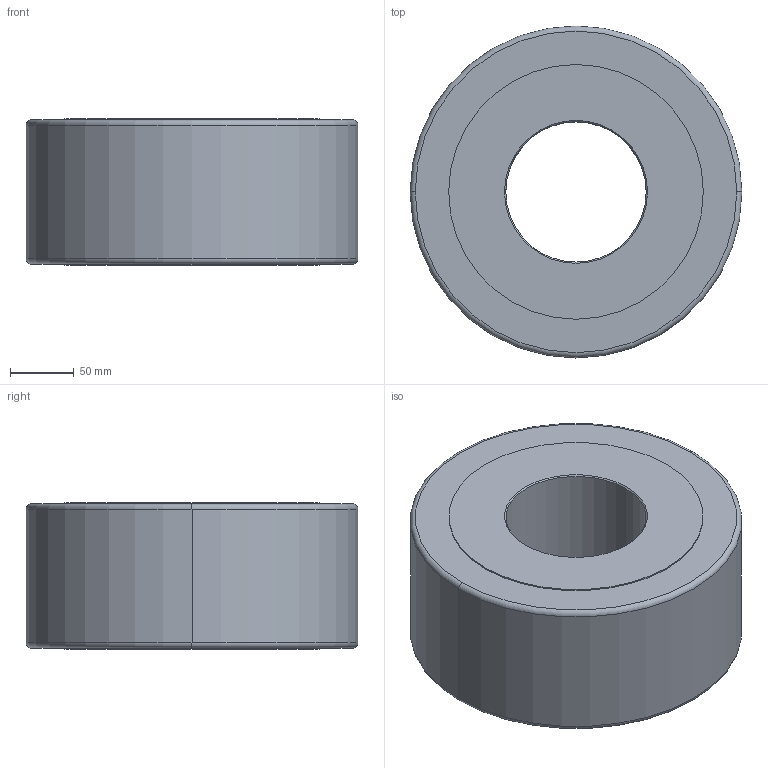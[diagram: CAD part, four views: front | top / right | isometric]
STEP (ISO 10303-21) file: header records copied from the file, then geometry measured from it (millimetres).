
FILE_DESCRIPTION (( 'STEP AP214' ), '1' );
FILE_NAME ('3DRSU110-260.STEP', '2013-12-19T09:46:29', ( 'usuario' ), ( 'Hewlett-Packard Company' ), 'SwSTEP 2.0', 'SolidWorks 2017', '' );
FILE_SCHEMA (( 'AUTOMOTIVE_DESIGN' ));
Length unit declared in the file: millimetre
Products named in the file (1): 3DRSU110-260
Bounding box: 260 x 260 x 115 mm (x, y, z)
Volume: 4963265.9 mm3; surface area: 217253.2 mm2
Topology: 1 solids, 1 shells, 20 faces, 40 edges, 24 vertices
Faces by surface type: cylinder 8, cone 4, torus 4, plane 4
Entity records: 566 total; most frequent: DIRECTION 110, CARTESIAN_POINT 85, ORIENTED_EDGE 80, AXIS2_PLACEMENT_3D 49, EDGE_CURVE 40, CIRCLE 28, VERTEX_POINT 24, EDGE_LOOP 24
